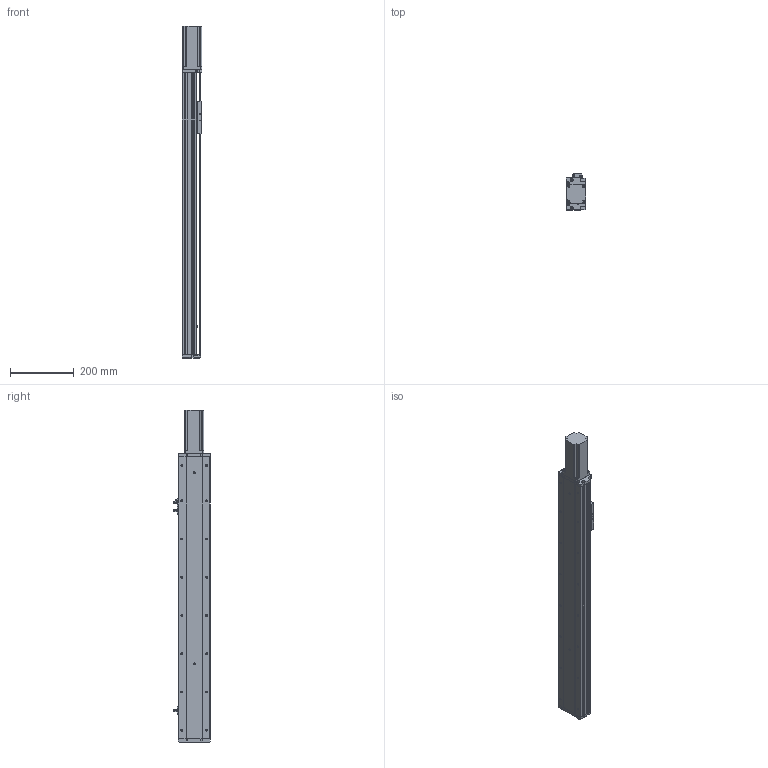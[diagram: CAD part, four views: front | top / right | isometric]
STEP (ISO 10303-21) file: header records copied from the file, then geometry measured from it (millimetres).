
FILE_DESCRIPTION (( 'STEP AP214' ), '1' );
FILE_NAME ('KSD100S-S650-MN-CM.STEP', '2019-08-30T07:33:15', ( '微软用户' ), ( '微软中国' ), 'SwSTEP 2.0', 'SolidWorks 2014', '' );
FILE_SCHEMA (( 'AUTOMOTIVE_DESIGN' ));
Length unit declared in the file: millimetre
Products named in the file (9): KSD100S-S650-MN-CM; 台达ECMA－C20604AS伺服电机; 覜茼え100遵圉猾敕; U倰嫖萇EEㄜSX672; 100宽防尘板丝杆650行程不带电机座; 100宽马达安装板不带电机座; 100宽滚珠螺姆安装板半封闭; 100遵傷啣; 100宽底板半封闭650行程丝杆不带电机座
Assembly tree (10 placements, depth 2):
  KSD100S-S650-MN-CM
    100宽底板半封闭650行程丝杆不带电机座
    100遵傷啣
    100宽滚珠螺姆安装板半封闭
    100宽马达安装板不带电机座
    100宽防尘板丝杆650行程不带电机座
    U倰嫖萇EEㄜSX672  x3
    覜茼え100遵圉猾敕
    台达ECMA－C20604AS伺服电机
Bounding box: 62 x 113.7 x 1042 mm (x, y, z)
Volume: 2218961.9 mm3; surface area: 682220.8 mm2
Topology: 11 solids, 11 shells, 1110 faces, 3144 edges, 1987 vertices
Faces by surface type: cylinder 527, plane 460, cone 123
Entity records: 38346 total; most frequent: CARTESIAN_POINT 7750, DIRECTION 5079, ORIENTED_EDGE 4948, EDGE_CURVE 2474, AXIS2_PLACEMENT_3D 1832, VERTEX_POINT 1611, LINE 1415, VECTOR 1415
